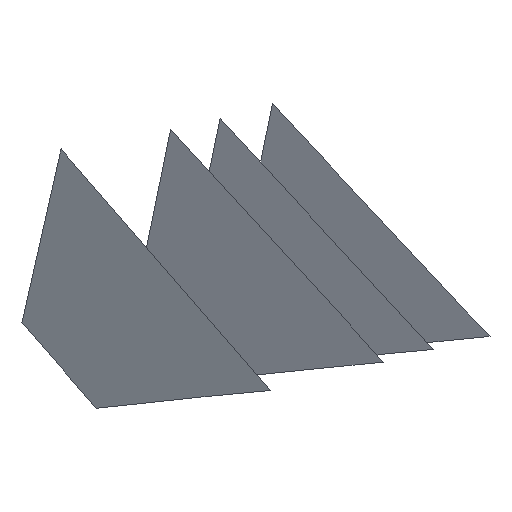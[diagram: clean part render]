
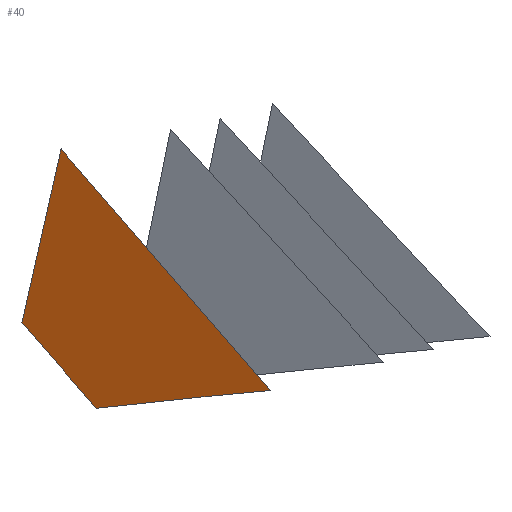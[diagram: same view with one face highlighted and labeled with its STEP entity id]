
A CAD part, front view. The second image highlights one B-rep face of the part: STEP entity #40.
In plain terms, the highlighted free-form (B-spline) face has degree [1, 1] with [2, 2] control points.
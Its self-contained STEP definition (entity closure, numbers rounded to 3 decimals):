
#40 = ADVANCED_FACE('',(#41),#54,.T.);
#41 = FACE_BOUND('',#42,.T.);
#42 = EDGE_LOOP('',(#43,#64,#78,#92,#106,#120));
#43 = ORIENTED_EDGE('',*,*,#44,.T.);
#44 = EDGE_CURVE('',#45,#47,#49,.T.);
#45 = VERTEX_POINT('',#46);
#46 = CARTESIAN_POINT('',(1566.735,-1542.283,
    1365.349));
#47 = VERTEX_POINT('',#48);
#48 = CARTESIAN_POINT('',(1572.275,-1544.304,
    1358.962));
#49 = SURFACE_CURVE('',#50,(#53),.PCURVE_S1.);
#50 = B_SPLINE_CURVE_WITH_KNOTS('',1,(#51,#52),.UNSPECIFIED.,.F.,.F.,(2,
    2),(0.,8.693),.PIECEWISE_BEZIER_KNOTS.);
#51 = CARTESIAN_POINT('',(1566.735,-1542.283,
    1365.349));
#52 = CARTESIAN_POINT('',(1572.275,-1544.304,
    1358.962));
#53 = PCURVE('',#54,#59);
#54 = B_SPLINE_SURFACE_WITH_KNOTS('',1,1,(
    (#55,#56)
    ,(#57,#58
    )),.UNSPECIFIED.,.F.,.F.,.F.,(2,2),(2,2),(-2.745,
    4.387),(-3.189,3.802),
  .PIECEWISE_BEZIER_KNOTS.);
#55 = CARTESIAN_POINT('',(1566.159,-1541.038,
    1358.065));
#56 = CARTESIAN_POINT('',(1572.275,-1544.304,
    1358.962));
#57 = CARTESIAN_POINT('',(1564.967,-1541.339,
    1365.09));
#58 = CARTESIAN_POINT('',(1571.083,-1544.606,
    1365.987));
#59 = DEFINITIONAL_REPRESENTATION('',(#60),#63);
#60 = B_SPLINE_CURVE_WITH_KNOTS('',1,(#61,#62),.UNSPECIFIED.,.F.,.F.,(2,
    2),(0.,8.693),.PIECEWISE_BEZIER_KNOTS.);
#61 = CARTESIAN_POINT('',(4.387,-1.169));
#62 = CARTESIAN_POINT('',(-2.745,3.802));
#63 = ( GEOMETRIC_REPRESENTATION_CONTEXT(2) 
PARAMETRIC_REPRESENTATION_CONTEXT() REPRESENTATION_CONTEXT('2D SPACE',''
  ) );
#64 = ORIENTED_EDGE('',*,*,#65,.T.);
#65 = EDGE_CURVE('',#47,#66,#68,.T.);
#66 = VERTEX_POINT('',#67);
#67 = CARTESIAN_POINT('',(1570.596,-1543.419,
    1358.804));
#68 = SURFACE_CURVE('',#69,(#72),.PCURVE_S1.);
#69 = B_SPLINE_CURVE_WITH_KNOTS('',1,(#70,#71),.UNSPECIFIED.,.F.,.F.,(2,
    2),(0.,1.905),.PIECEWISE_BEZIER_KNOTS.);
#70 = CARTESIAN_POINT('',(1572.275,-1544.304,
    1358.962));
#71 = CARTESIAN_POINT('',(1570.596,-1543.419,
    1358.804));
#72 = PCURVE('',#54,#73);
#73 = DEFINITIONAL_REPRESENTATION('',(#74),#77);
#74 = B_SPLINE_CURVE_WITH_KNOTS('',1,(#75,#76),.UNSPECIFIED.,.F.,.F.,(2,
    2),(0.,1.905),.PIECEWISE_BEZIER_KNOTS.);
#75 = CARTESIAN_POINT('',(-2.745,3.802));
#76 = CARTESIAN_POINT('',(-2.657,1.899));
#77 = ( GEOMETRIC_REPRESENTATION_CONTEXT(2) 
PARAMETRIC_REPRESENTATION_CONTEXT() REPRESENTATION_CONTEXT('2D SPACE',''
  ) );
#78 = ORIENTED_EDGE('',*,*,#79,.T.);
#79 = EDGE_CURVE('',#66,#80,#82,.T.);
#80 = VERTEX_POINT('',#81);
#81 = CARTESIAN_POINT('',(1568.832,-1542.486,
    1358.616));
#82 = SURFACE_CURVE('',#83,(#86),.PCURVE_S1.);
#83 = B_SPLINE_CURVE_WITH_KNOTS('',1,(#84,#85),.UNSPECIFIED.,.F.,.F.,(2,
    2),(0.,2.004),.PIECEWISE_BEZIER_KNOTS.);
#84 = CARTESIAN_POINT('',(1570.596,-1543.419,
    1358.804));
#85 = CARTESIAN_POINT('',(1568.832,-1542.486,
    1358.616));
#86 = PCURVE('',#54,#87);
#87 = DEFINITIONAL_REPRESENTATION('',(#88),#91);
#88 = B_SPLINE_CURVE_WITH_KNOTS('',1,(#89,#90),.UNSPECIFIED.,.F.,.F.,(2,
    2),(0.,2.004),.PIECEWISE_BEZIER_KNOTS.);
#89 = CARTESIAN_POINT('',(-2.657,1.899));
#90 = CARTESIAN_POINT('',(-2.588,-0.104));
#91 = ( GEOMETRIC_REPRESENTATION_CONTEXT(2) 
PARAMETRIC_REPRESENTATION_CONTEXT() REPRESENTATION_CONTEXT('2D SPACE',''
  ) );
#92 = ORIENTED_EDGE('',*,*,#93,.T.);
#93 = EDGE_CURVE('',#80,#94,#96,.T.);
#94 = VERTEX_POINT('',#95);
#95 = CARTESIAN_POINT('',(1567.668,-1541.87,
    1358.491));
#96 = SURFACE_CURVE('',#97,(#100),.PCURVE_S1.);
#97 = B_SPLINE_CURVE_WITH_KNOTS('',1,(#98,#99),.UNSPECIFIED.,.F.,.F.,(2,
    2),(0.,1.323),.PIECEWISE_BEZIER_KNOTS.);
#98 = CARTESIAN_POINT('',(1568.832,-1542.486,
    1358.616));
#99 = CARTESIAN_POINT('',(1567.668,-1541.87,
    1358.491));
#100 = PCURVE('',#54,#101);
#101 = DEFINITIONAL_REPRESENTATION('',(#102),#105);
#102 = B_SPLINE_CURVE_WITH_KNOTS('',1,(#103,#104),.UNSPECIFIED.,.F.,.F.,
  (2,2),(0.,1.323),.PIECEWISE_BEZIER_KNOTS.);
#103 = CARTESIAN_POINT('',(-2.588,-0.104));
#104 = CARTESIAN_POINT('',(-2.541,-1.426));
#105 = ( GEOMETRIC_REPRESENTATION_CONTEXT(2) 
PARAMETRIC_REPRESENTATION_CONTEXT() REPRESENTATION_CONTEXT('2D SPACE',''
  ) );
#106 = ORIENTED_EDGE('',*,*,#107,.T.);
#107 = EDGE_CURVE('',#94,#108,#110,.T.);
#108 = VERTEX_POINT('',#109);
#109 = CARTESIAN_POINT('',(1565.702,-1541.153,
    1360.757));
#110 = SURFACE_CURVE('',#111,(#114),.PCURVE_S1.);
#111 = B_SPLINE_CURVE_WITH_KNOTS('',1,(#112,#113),.UNSPECIFIED.,.F.,.F.,
  (2,2),(0.,3.084),.PIECEWISE_BEZIER_KNOTS.);
#112 = CARTESIAN_POINT('',(1567.668,-1541.87,
    1358.491));
#113 = CARTESIAN_POINT('',(1565.702,-1541.153,
    1360.757));
#114 = PCURVE('',#54,#115);
#115 = DEFINITIONAL_REPRESENTATION('',(#116),#119);
#116 = B_SPLINE_CURVE_WITH_KNOTS('',1,(#117,#118),.UNSPECIFIED.,.F.,.F.,
  (2,2),(0.,3.084),.PIECEWISE_BEZIER_KNOTS.);
#117 = CARTESIAN_POINT('',(-2.541,-1.426));
#118 = CARTESIAN_POINT('',(-0.011,-3.189));
#119 = ( GEOMETRIC_REPRESENTATION_CONTEXT(2) 
PARAMETRIC_REPRESENTATION_CONTEXT() REPRESENTATION_CONTEXT('2D SPACE',''
  ) );
#120 = ORIENTED_EDGE('',*,*,#121,.T.);
#121 = EDGE_CURVE('',#108,#45,#122,.T.);
#122 = SURFACE_CURVE('',#123,(#126),.PCURVE_S1.);
#123 = B_SPLINE_CURVE_WITH_KNOTS('',1,(#124,#125),.UNSPECIFIED.,.F.,.F.,
  (2,2),(0.,4.84),.PIECEWISE_BEZIER_KNOTS.);
#124 = CARTESIAN_POINT('',(1565.702,-1541.153,
    1360.757));
#125 = CARTESIAN_POINT('',(1566.735,-1542.283,
    1365.349));
#126 = PCURVE('',#54,#127);
#127 = DEFINITIONAL_REPRESENTATION('',(#128),#131);
#128 = B_SPLINE_CURVE_WITH_KNOTS('',1,(#129,#130),.UNSPECIFIED.,.F.,.F.,
  (2,2),(0.,4.84),.PIECEWISE_BEZIER_KNOTS.);
#129 = CARTESIAN_POINT('',(-0.011,-3.189));
#130 = CARTESIAN_POINT('',(4.387,-1.169));
#131 = ( GEOMETRIC_REPRESENTATION_CONTEXT(2) 
PARAMETRIC_REPRESENTATION_CONTEXT() REPRESENTATION_CONTEXT('2D SPACE',''
  ) );
